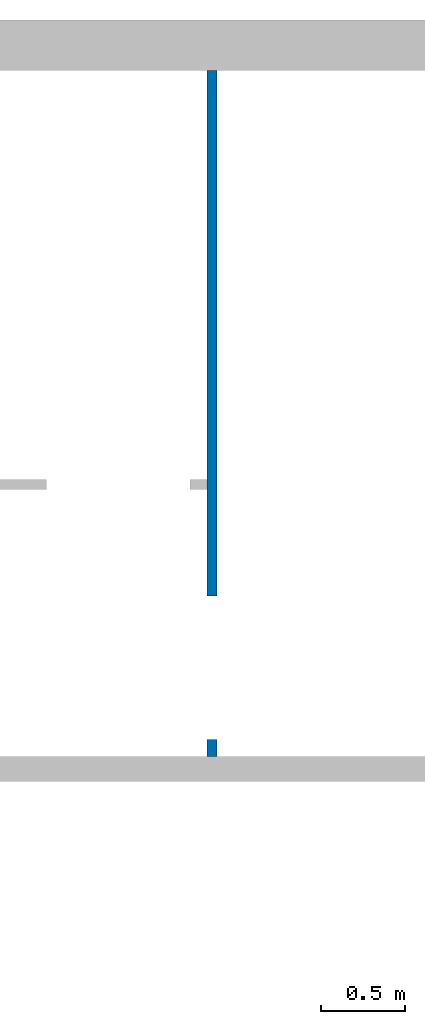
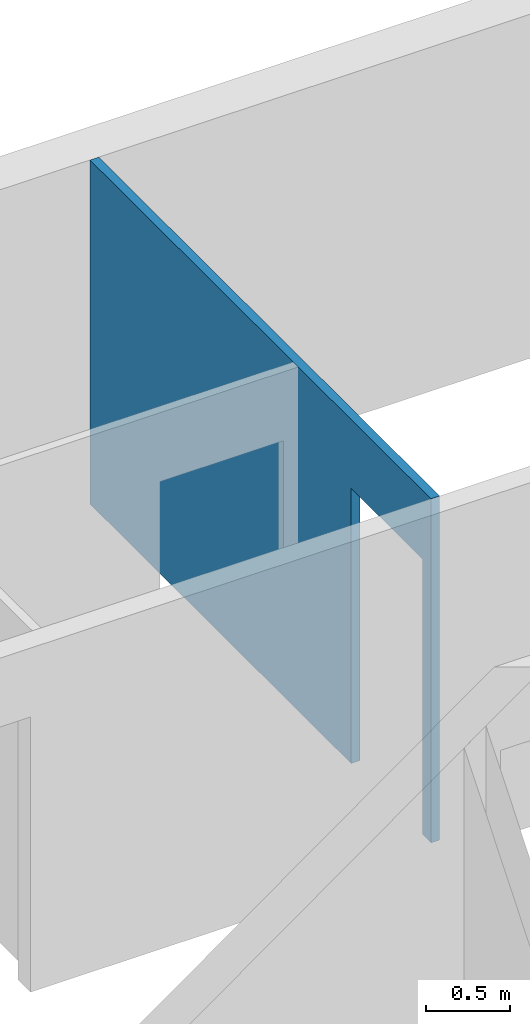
# One storey, part 2 of 2: 1 wall, 1 opening.
"""IFC2X3 building model written with IfcOpenShell, lengths in metres."""

from ifc_helpers import new_model, entity, si_unit, converted_unit, derived_unit, direction, frame, origin, place, context, subcontext, project, spatial, faceted_brep, material, element, save


model = new_model("IFC2X3")

# Units and contexts
model_context = context("Model", 3, precision=1e-05, world=origin(), true_north=direction((0.772621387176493, -0.634867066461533)))
body_context = subcontext(model_context, "Body", "Model", "MODEL_VIEW")
ifc_project = project(units=[si_unit("LENGTHUNIT", "METRE"), si_unit("AREAUNIT", "SQUARE_METRE"), si_unit("VOLUMEUNIT", "CUBIC_METRE"), si_unit("MASSUNIT", "GRAM", prefix="KILO"), converted_unit("PLANEANGLEUNIT", "DEGREE", entity("IfcPlaneAngleMeasure", 0.0174532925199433), si_unit("PLANEANGLEUNIT", "RADIAN"), dimensions=[0, 0, 0, 0, 0, 0, 0]), derived_unit("THERMALTRANSMITTANCEUNIT", [(si_unit("POWERUNIT", "WATT"), 1), (si_unit("THERMODYNAMICTEMPERATUREUNIT", "KELVIN"), -1), (si_unit("LENGTHUNIT", "METRE"), -2)]), derived_unit("VOLUMETRICFLOWRATEUNIT", [(si_unit("LENGTHUNIT", "METRE"), 3), (converted_unit("TIMEUNIT", "hour", entity("IfcTimeMeasure", 3600.0), si_unit("TIMEUNIT", "SECOND"), dimensions=[0, 0, 1, 0, 0, 0, 0]), -1), (si_unit("LENGTHUNIT", "METRE"), -1)])], contexts=[model_context])

# Site, building, storey
site_placement = place(None, origin())
site = spatial("IfcSite", under=ifc_project, at=site_placement, Name="Modelle auf dem Nullpunkt", CompositionType="ELEMENT")
building_placement = place(site_placement, origin())
building = spatial("IfcBuilding", under=site, at=building_placement, Name="H", CompositionType="ELEMENT")
storey_placement = place(building_placement, origin())
storey = spatial("IfcBuildingStorey", under=building, at=storey_placement, Name="EG", CompositionType="ELEMENT", Elevation=0.0)

# Wall, opening
ifc_material = material(Name="Brique")
wall_placement = place(storey_placement, frame((43.6038677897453, -1.83739378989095, 437.66)))
wall = element("IfcWall", 1, at=wall_placement, inside=storey, material=ifc_material, context=body_context, shape_type="Brep", body=[
    faceted_brep([(0.0600000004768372, 0.0, 0.0), (0.0, 0.0, 0.0), (0.0, 0.0, 2.49999999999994), (0.0600000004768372, 0.0, 2.49999999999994), (0.0, 4.05999999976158, 0.0), (0.0, 4.05999999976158, 2.49999999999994), (0.06, 4.05999999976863, 0.0), (0.06, 4.05999999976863, 2.49999999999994)], [[[0, 1, 2, 3]], [[1, 4, 5, 2]], [[4, 6, 7, 5]], [[6, 0, 3, 7]], [[3, 2, 5, 7]], [[0, 6, 4, 1]]], orient=[[False], [False], [False], [False], [False], [False]]),
])
opening_placement = place(wall_placement, frame((0.0, 0.0999999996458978, 0.0)))
element("IfcOpeningElement", 2, at=opening_placement, cuts=wall, ObjectType="Opening", context=body_context, shape_type="Brep", body=[
    faceted_brep([(0.0599999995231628, 0.849999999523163, 0.0), (0.0599999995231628, 0.0, 0.0), (0.0599999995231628, 0.0, 2.0), (0.0599999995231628, 0.849999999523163, 2.0), (0.0, 0.849999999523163, 0.0), (0.0, 0.849999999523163, 2.0), (0.0, 0.0, 2.0), (0.0, 0.0, 0.0)], [[[0, 1, 2, 3]], [[4, 5, 6, 7]], [[1, 0, 4, 7]], [[2, 1, 7, 6]], [[3, 2, 6, 5]], [[0, 3, 5, 4]]], orient=[[False], [False], [False], [False], [False], [False]]),
])

save(model, "model.ifc")
